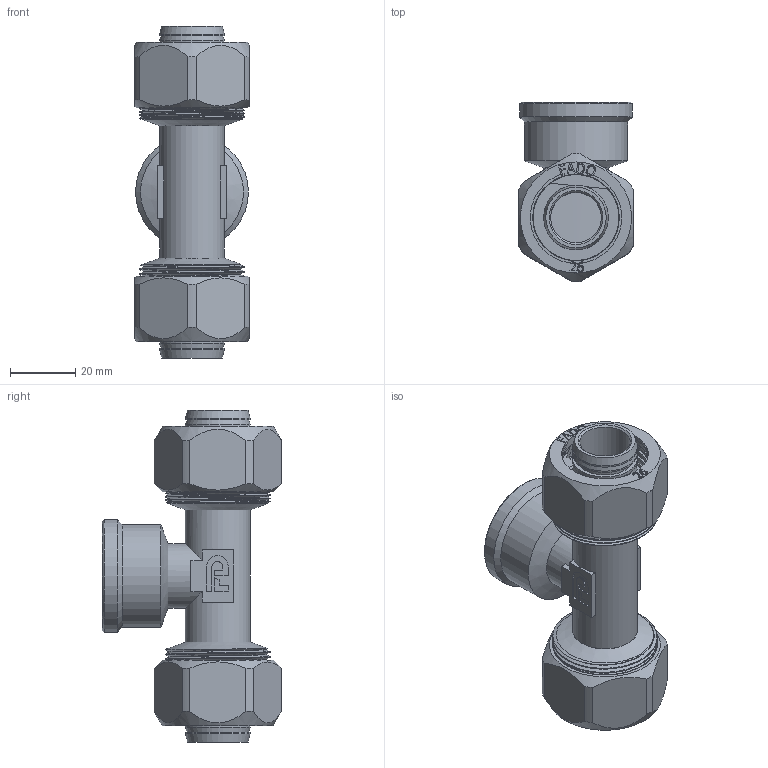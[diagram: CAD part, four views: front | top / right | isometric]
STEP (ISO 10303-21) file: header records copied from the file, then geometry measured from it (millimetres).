
FILE_DESCRIPTION(/* description */ (''),/* implementation_level */ '2;1');
FILE_NAME(/* name */ 'C:\Users\Doom\Desktop\Фадотех\Обжим\RFT15 26x34''''Fx26 30.03.2020\RFT15 26x34''''Fx26 30.03.2020.stp',/* time_stamp */ '2022-06-01T13:20:22+03:00',/* author */ ('Doom'),/* organization */ (''),/* preprocessor_version */ 'ST-DEVELOPER v18',/* originating_system */ 'Autodesk Inventor 2020',/* authorisation */ '');
FILE_SCHEMA (('AUTOMOTIVE_DESIGN { 1 0 10303 214 3 1 1 }'));
Length unit declared in the file: millimetre
Products named in the file (5): RFT15 26x34''Fx26 30.03.2020; RFM29 32x1.2M 30.03.2020; Olive 26 15.02.2020; FADO MC Socket-26 15.02.2020; FADO MC Nut-26 15.02.2020
Assembly tree (7 placements, depth 2):
  RFT15 26x34''Fx26 30.03.2020
    RFM29 32x1.2M 30.03.2020
    Olive 26 15.02.2020  x2
    FADO MC Socket-26 15.02.2020  x2
    FADO MC Nut-26 15.02.2020  x2
Bounding box: 35 x 54.8 x 101.5 mm (x, y, z)
Volume: 45199.6 mm3; surface area: 55809.8 mm2
Topology: 12 solids, 12 shells, 1079 faces, 2999 edges, 2023 vertices
Faces by surface type: bspline 546, plane 314, cylinder 171, cone 42, torus 6
Full cylindrical faces by diameter (mm): 15 x1, 15.5 x2, 16 x1, 17.6 x4, 19.8 x12, 21 x2, 23.75 x6, 24 x4, 24.5 x2, 26.44 x2, 26.5 x2, 29.776 x2, 30 x2, 30.517 x24, 30.6 x2, 31.5 x1, 32 x21, 34.5 x1
Entity records: 43920 total; most frequent: CARTESIAN_POINT 29882, ORIENTED_EDGE 3402, DIRECTION 1988, EDGE_CURVE 1701, VERTEX_POINT 1148, LINE 688, VECTOR 688, B_SPLINE_CURVE_WITH_KNOTS 686
